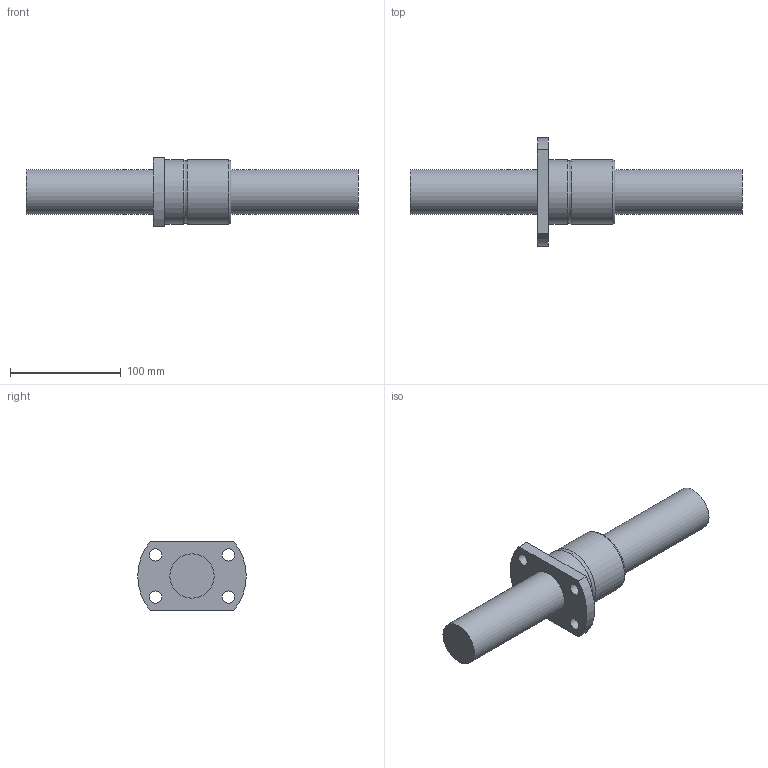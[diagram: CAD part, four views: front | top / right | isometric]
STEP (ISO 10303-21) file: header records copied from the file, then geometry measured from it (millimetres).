
FILE_DESCRIPTION((''),'2;1');
FILE_NAME('D:\製品 (図面)\カタログ用3D\ネジ関連\STEP形式\TMK-OH\TMK40-OH.stp','2010-06-02T15:30:17',('Tsuchiya'),(''),'Autodesk Inventor 10','Autodesk Inventor 10','');
FILE_SCHEMA(('AUTOMOTIVE_DESIGN { 1 0 10303 214 1 1 1 1 }'));
Length unit declared in the file: millimetre
Products named in the file (3): TMK40-OH; TMK40-OH1; TMK40-OH2
Assembly tree (2 placements, depth 2):
  TMK40-OH
    TMK40-OH1
    TMK40-OH2
Bounding box: 300 x 98 x 62 mm (x, y, z)
Volume: 499631.6 mm3; surface area: 72110.8 mm2
Topology: 2 solids, 2 shells, 21 faces, 49 edges, 33 vertices
Faces by surface type: cylinder 7, plane 7, bspline 6, torus 1
Full cylindrical faces by diameter (mm): 3 x1, 40 x2, 58 x2
Entity records: 872 total; most frequent: CARTESIAN_POINT 378, DIRECTION 92, ORIENTED_EDGE 64, EDGE_LOOP 46, AXIS2_PLACEMENT_3D 42, EDGE_CURVE 32, VERTEX_POINT 28, FACE_BOUND 25
